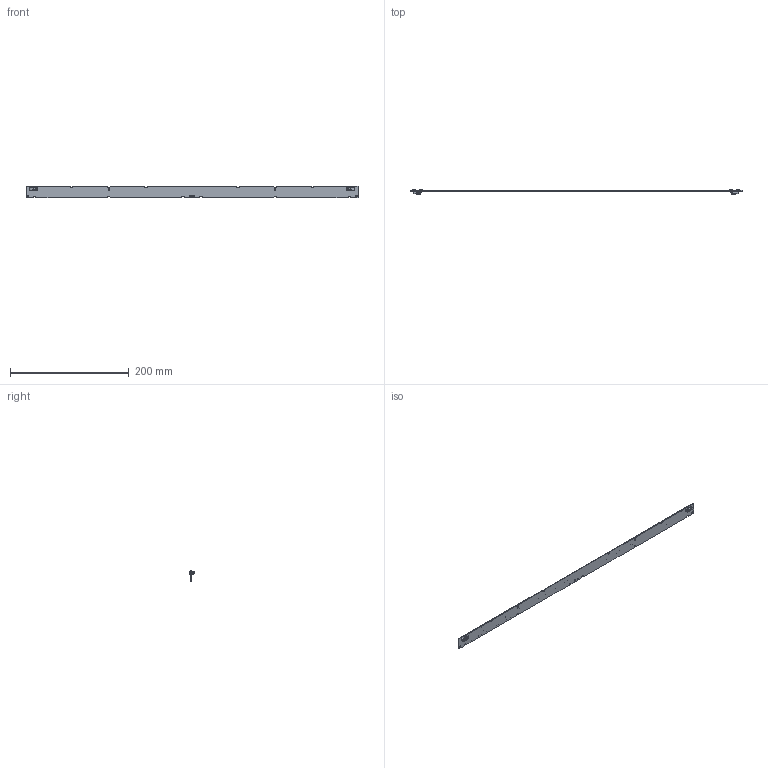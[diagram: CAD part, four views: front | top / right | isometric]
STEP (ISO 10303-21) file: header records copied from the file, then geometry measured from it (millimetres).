
FILE_DESCRIPTION (( 'STEP AP214' ), '1' );
FILE_NAME ('WU-M-579-BC-Hole.STEP', '2017-09-12T13:53:26', ( 'Admin' ), ( 'Microsoft' ), 'SwSTEP 2.0', 'SolidWorks 2017', '' );
FILE_SCHEMA (( 'AUTOMOTIVE_DESIGN' ));
Length unit declared in the file: millimetre
Products named in the file (85): STW8C2PB-E1; Built-In LED Module-4mm; VSO-Logo-3mm; CE-Zeichen-3mm; WU-M-579-Hole PCB; WU-M-579-BC-Hole; 46_111_1001
Assembly tree (78 placements, depth 2):
  STW8C2PB-E1
  STW8C2PB-E1
  Built-In LED Module-4mm
  STW8C2PB-E1
  STW8C2PB-E1
Bounding box: 559 x 7.43 x 20 mm (x, y, z)
Volume: 18147.7 mm3; surface area: 26955.2 mm2
Topology: 84 solids, 84 shells, 8316 faces, 21609 edges, 14398 vertices
Faces by surface type: plane 6181, cylinder 1419, bspline 716
Entity records: 155835 total; most frequent: CARTESIAN_POINT 49888, ORIENTED_EDGE 17160, DIRECTION 11859, EDGE_CURVE 8580, LINE 6289, VECTOR 6289, VERTEX_POINT 5716, EDGE_LOOP 3476
